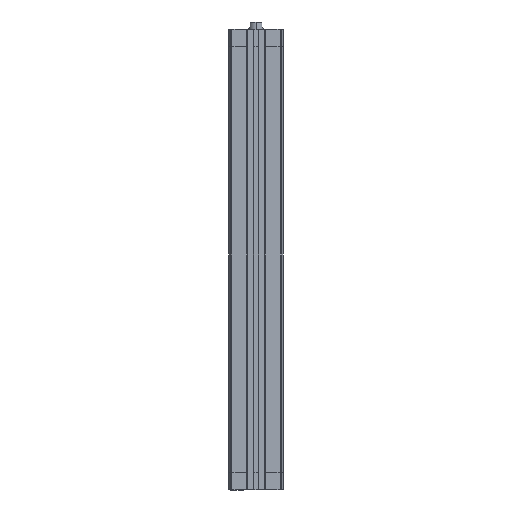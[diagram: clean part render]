
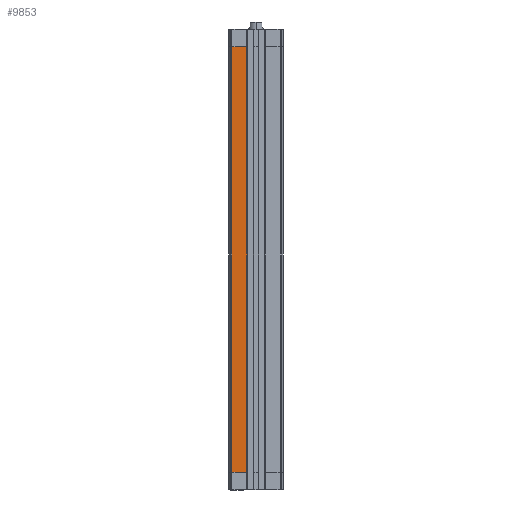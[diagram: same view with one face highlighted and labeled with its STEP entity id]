
A CAD part, left-side view. The second image highlights one B-rep face of the part: STEP entity #9853.
In plain terms, the highlighted planar face has unit normal (-1, 0, 0).
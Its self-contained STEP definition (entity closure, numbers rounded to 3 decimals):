
#456 = VECTOR ( 'NONE', #9076, 1000. ) ;
#842 = LINE ( 'NONE', #4230, #456 ) ;
#1421 = VECTOR ( 'NONE', #11685, 1000. ) ;
#1601 = EDGE_CURVE ( 'NONE', #7481, #11713, #10741, .T. ) ;
#2751 = DIRECTION ( 'NONE',  ( 0., 0., 1. ) ) ;
#3212 = LINE ( 'NONE', #4474, #6093 ) ;
#3254 = DIRECTION ( 'NONE',  ( 0., 0., -1. ) ) ;
#3432 = EDGE_CURVE ( 'NONE', #5024, #11713, #3212, .T. ) ;
#3940 = ORIENTED_EDGE ( 'NONE', *, *, #1601, .T. ) ;
#4046 = DIRECTION ( 'NONE',  ( 0., 1., 0. ) ) ;
#4230 = CARTESIAN_POINT ( 'NONE',  ( -23.25, 20.543, -379. ) ) ;
#4474 = CARTESIAN_POINT ( 'NONE',  ( -23.25, 7.95, -379. ) ) ;
#4961 = EDGE_CURVE ( 'NONE', #13368, #7481, #842, .T. ) ;
#5024 = VERTEX_POINT ( 'NONE', #15115 ) ;
#5274 = CARTESIAN_POINT ( 'NONE',  ( -23.25, 0., -15. ) ) ;
#5376 = FACE_OUTER_BOUND ( 'NONE', #15081, .T. ) ;
#5824 = VECTOR ( 'NONE', #4046, 1000. ) ;
#6093 = VECTOR ( 'NONE', #3254, 1000. ) ;
#6196 = LINE ( 'NONE', #5274, #5824 ) ;
#6623 = CARTESIAN_POINT ( 'NONE',  ( -23.25, 7.95, -379. ) ) ;
#7481 = VERTEX_POINT ( 'NONE', #8819 ) ;
#8540 = EDGE_CURVE ( 'NONE', #5024, #13368, #6196, .T. ) ;
#8779 = PLANE ( 'NONE',  #12528 ) ;
#8819 = CARTESIAN_POINT ( 'NONE',  ( -23.25, 20.543, -379. ) ) ;
#9076 = DIRECTION ( 'NONE',  ( 0., 0., -1. ) ) ;
#9853 = ADVANCED_FACE ( 'NONE', ( #5376 ), #8779, .T. ) ;
#10012 = DIRECTION ( 'NONE',  ( -1., 0., 0. ) ) ;
#10448 = CARTESIAN_POINT ( 'NONE',  ( -23.25, 20.543, -379. ) ) ;
#10497 = ORIENTED_EDGE ( 'NONE', *, *, #3432, .F. ) ;
#10741 = LINE ( 'NONE', #10448, #1421 ) ;
#11183 = ORIENTED_EDGE ( 'NONE', *, *, #4961, .T. ) ;
#11685 = DIRECTION ( 'NONE',  ( 0., -1., 0. ) ) ;
#11713 = VERTEX_POINT ( 'NONE', #6623 ) ;
#12528 = AXIS2_PLACEMENT_3D ( 'NONE', #13536, #10012, #2751 ) ;
#13368 = VERTEX_POINT ( 'NONE', #14222 ) ;
#13536 = CARTESIAN_POINT ( 'NONE',  ( -23.25, 20.543, -379. ) ) ;
#13604 = ORIENTED_EDGE ( 'NONE', *, *, #8540, .T. ) ;
#14222 = CARTESIAN_POINT ( 'NONE',  ( -23.25, 20.543, -15. ) ) ;
#15081 = EDGE_LOOP ( 'NONE', ( #3940, #10497, #13604, #11183 ) ) ;
#15115 = CARTESIAN_POINT ( 'NONE',  ( -23.25, 7.95, -15. ) ) ;
